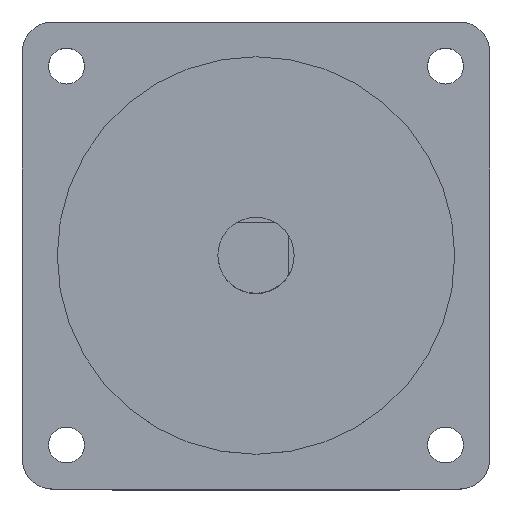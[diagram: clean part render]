
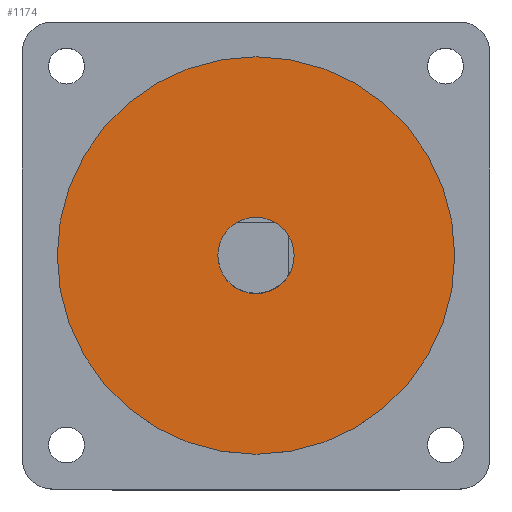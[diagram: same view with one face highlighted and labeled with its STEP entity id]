
A CAD part, top view. The second image highlights one B-rep face of the part: STEP entity #1174.
In plain terms, the highlighted planar face has unit normal (0, 0, 1).
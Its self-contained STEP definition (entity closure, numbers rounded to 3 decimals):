
#19 = ORIENTED_EDGE ( 'NONE', *, *, #3275, .T. ) ;
#26 = CARTESIAN_POINT ( 'NONE',  ( 0., 0., 2. ) ) ;
#95 = EDGE_CURVE ( 'NONE', #3923, #1664, #2604, .T. ) ;
#127 = AXIS2_PLACEMENT_3D ( 'NONE', #2879, #2586, #3141 ) ;
#362 = DIRECTION ( 'NONE',  ( 1., 0., 0. ) ) ;
#430 = PLANE ( 'NONE',  #127 ) ;
#531 = CIRCLE ( 'NONE', #1115, 7. ) ;
#552 = AXIS2_PLACEMENT_3D ( 'NONE', #2863, #2846, #2832 ) ;
#554 = EDGE_LOOP ( 'NONE', ( #3107, #835 ) ) ;
#835 = ORIENTED_EDGE ( 'NONE', *, *, #1000, .T. ) ;
#866 = CARTESIAN_POINT ( 'NONE',  ( 0., 0., 2. ) ) ;
#936 = ORIENTED_EDGE ( 'NONE', *, *, #3482, .T. ) ;
#974 = CIRCLE ( 'NONE', #3066, 7. ) ;
#1000 = EDGE_CURVE ( 'NONE', #1664, #3923, #1622, .T. ) ;
#1115 = AXIS2_PLACEMENT_3D ( 'NONE', #1156, #3279, #1458 ) ;
#1139 = FACE_BOUND ( 'NONE', #3268, .T. ) ;
#1156 = CARTESIAN_POINT ( 'NONE',  ( 0., 0., 2. ) ) ;
#1174 = ADVANCED_FACE ( 'NONE', ( #3466, #1139 ), #430, .T. ) ;
#1189 = DIRECTION ( 'NONE',  ( 1., 0., 0. ) ) ;
#1458 = DIRECTION ( 'NONE',  ( 1., 0., 0. ) ) ;
#1622 = CIRCLE ( 'NONE', #2103, 36.513 ) ;
#1664 = VERTEX_POINT ( 'NONE', #2211 ) ;
#1885 = CARTESIAN_POINT ( 'NONE',  ( -36.513, 0., 2. ) ) ;
#2103 = AXIS2_PLACEMENT_3D ( 'NONE', #26, #2222, #362 ) ;
#2127 = CARTESIAN_POINT ( 'NONE',  ( -7., 0., 2. ) ) ;
#2211 = CARTESIAN_POINT ( 'NONE',  ( 36.513, 0., 2. ) ) ;
#2222 = DIRECTION ( 'NONE',  ( 0., 0., 1. ) ) ;
#2455 = VERTEX_POINT ( 'NONE', #3815 ) ;
#2586 = DIRECTION ( 'NONE',  ( 0., 0., 1. ) ) ;
#2604 = CIRCLE ( 'NONE', #552, 36.513 ) ;
#2832 = DIRECTION ( 'NONE',  ( 1., 0., 0. ) ) ;
#2846 = DIRECTION ( 'NONE',  ( 0., 0., 1. ) ) ;
#2863 = CARTESIAN_POINT ( 'NONE',  ( 0., 0., 2. ) ) ;
#2879 = CARTESIAN_POINT ( 'NONE',  ( 0., 0., 2. ) ) ;
#3003 = DIRECTION ( 'NONE',  ( 0., 0., -1. ) ) ;
#3066 = AXIS2_PLACEMENT_3D ( 'NONE', #866, #3003, #1189 ) ;
#3107 = ORIENTED_EDGE ( 'NONE', *, *, #95, .T. ) ;
#3141 = DIRECTION ( 'NONE',  ( 1., 0., 0. ) ) ;
#3268 = EDGE_LOOP ( 'NONE', ( #936, #19 ) ) ;
#3275 = EDGE_CURVE ( 'NONE', #2455, #3537, #531, .T. ) ;
#3279 = DIRECTION ( 'NONE',  ( 0., 0., -1. ) ) ;
#3466 = FACE_OUTER_BOUND ( 'NONE', #554, .T. ) ;
#3482 = EDGE_CURVE ( 'NONE', #3537, #2455, #974, .T. ) ;
#3537 = VERTEX_POINT ( 'NONE', #2127 ) ;
#3815 = CARTESIAN_POINT ( 'NONE',  ( 7., 0., 2. ) ) ;
#3923 = VERTEX_POINT ( 'NONE', #1885 ) ;
